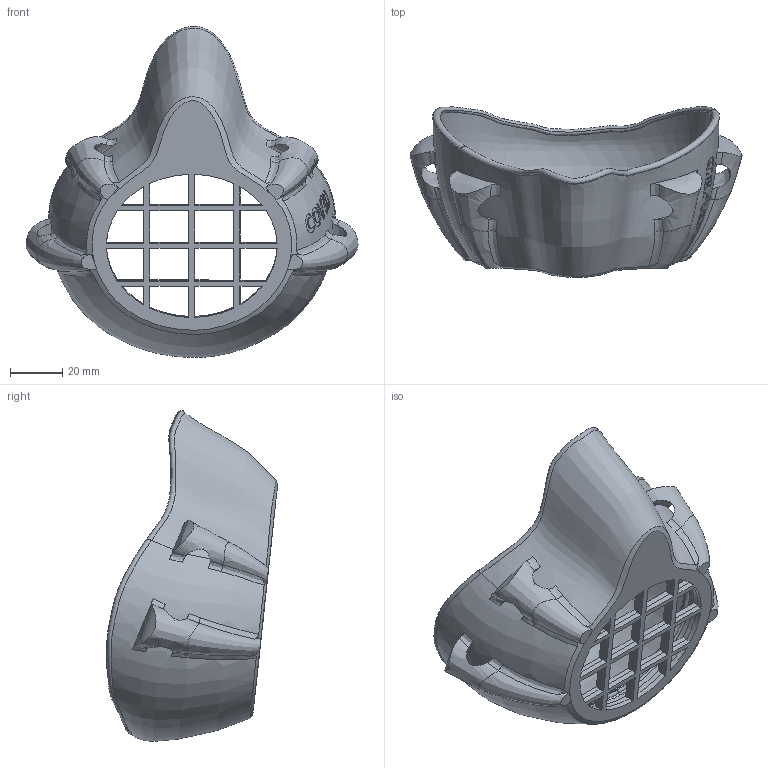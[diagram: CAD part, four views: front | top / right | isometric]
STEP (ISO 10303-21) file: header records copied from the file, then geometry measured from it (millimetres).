
FILE_DESCRIPTION(/* description */ (''),/* implementation_level */ '2;1');
FILE_NAME(/* name */ 'M-MEDI~2',/* time_stamp */ '2020-04-10T21:35:43+03:00',/* author */ (''),/* organization */ (''),/* preprocessor_version */ 'ST-DEVELOPER v16.5',/* originating_system */ '',/* authorisation */ '');
FILE_SCHEMA (('AUTOMOTIVE_DESIGN'));
Length unit declared in the file: millimetre
Products named in the file (1): Document
Bounding box: 127.53 x 65.77 x 127.11 mm (x, y, z)
Volume: 56882 mm3; surface area: 48266.1 mm2
Topology: 1 solids, 1 shells, 312 faces, 797 edges, 489 vertices
Faces by surface type: bspline 209, plane 103
Entity records: 184217 total; most frequent: CARTESIAN_POINT 179229, ORIENTED_EDGE 1594, EDGE_CURVE 797, B_SPLINE_CURVE_WITH_KNOTS 625, VERTEX_POINT 489, EDGE_LOOP 354, ADVANCED_FACE 312, FACE_OUTER_BOUND 312
